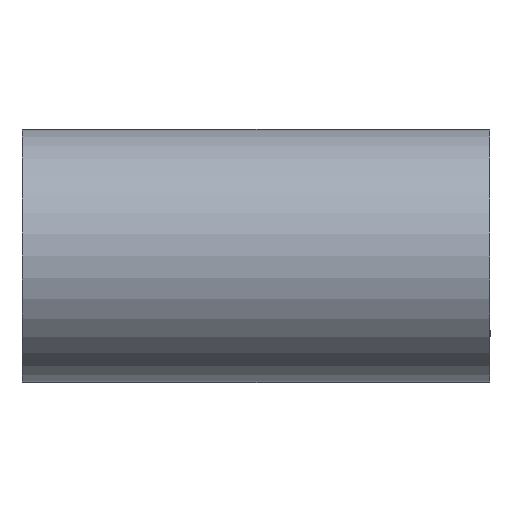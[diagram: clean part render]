
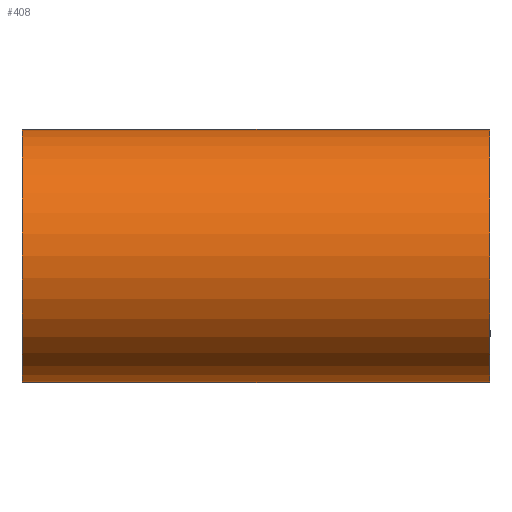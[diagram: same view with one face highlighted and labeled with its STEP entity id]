
A CAD part, front view. The second image highlights one B-rep face of the part: STEP entity #408.
In plain terms, the highlighted cylindrical face has radius 53 mm (diameter 106 mm), a full revolution.
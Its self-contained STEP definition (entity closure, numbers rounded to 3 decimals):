
#16=FACE_BOUND('',#102,.T.);
#17=FACE_BOUND('',#103,.T.);
#26=ELLIPSE('',#433,74.953,53.);
#27=ELLIPSE('',#434,74.953,53.);
#29=CYLINDRICAL_SURFACE('',#431,53.);
#75=FACE_OUTER_BOUND('',#101,.T.);
#101=EDGE_LOOP('',(#343));
#102=EDGE_LOOP('',(#344,#345));
#103=EDGE_LOOP('',(#346));
#124=CIRCLE('',#432,53.);
#125=CIRCLE('',#435,53.);
#195=VERTEX_POINT('',#26420);
#196=VERTEX_POINT('',#26422);
#197=VERTEX_POINT('',#26423);
#198=VERTEX_POINT('',#26426);
#253=EDGE_CURVE('',#195,#195,#124,.T.);
#254=EDGE_CURVE('',#196,#197,#26,.T.);
#255=EDGE_CURVE('',#197,#196,#27,.T.);
#256=EDGE_CURVE('',#198,#198,#125,.T.);
#343=ORIENTED_EDGE('',*,*,#253,.F.);
#344=ORIENTED_EDGE('',*,*,#254,.T.);
#345=ORIENTED_EDGE('',*,*,#255,.T.);
#346=ORIENTED_EDGE('',*,*,#256,.F.);
#408=ADVANCED_FACE('',(#75,#16,#17),#29,.T.);
#431=AXIS2_PLACEMENT_3D('',#26419,#483,#484);
#432=AXIS2_PLACEMENT_3D('',#26421,#485,#486);
#433=AXIS2_PLACEMENT_3D('',#26424,#487,#488);
#434=AXIS2_PLACEMENT_3D('',#26425,#489,#490);
#435=AXIS2_PLACEMENT_3D('',#26427,#491,#492);
#483=DIRECTION('center_axis',(1.,0.,0.));
#484=DIRECTION('ref_axis',(0.,-1.,0.));
#485=DIRECTION('center_axis',(-1.,0.,0.));
#486=DIRECTION('ref_axis',(0.,-1.,0.));
#487=DIRECTION('center_axis',(-0.707,-0.707,0.));
#488=DIRECTION('ref_axis',(0.707,-0.707,0.));
#489=DIRECTION('center_axis',(0.707,-0.707,0.));
#490=DIRECTION('ref_axis',(0.707,0.707,0.));
#491=DIRECTION('center_axis',(1.,0.,0.));
#492=DIRECTION('ref_axis',(0.,-1.,0.));
#26419=CARTESIAN_POINT('Origin',(0.,0.,0.));
#26420=CARTESIAN_POINT('',(-98.,53.,0.));
#26421=CARTESIAN_POINT('Origin',(-98.,0.,0.));
#26422=CARTESIAN_POINT('',(0.,0.,53.));
#26423=CARTESIAN_POINT('',(0.,0.,-53.));
#26424=CARTESIAN_POINT('Origin',(0.,0.,0.));
#26425=CARTESIAN_POINT('Origin',(0.,0.,0.));
#26426=CARTESIAN_POINT('',(98.,53.,0.));
#26427=CARTESIAN_POINT('Origin',(98.,0.,0.));
